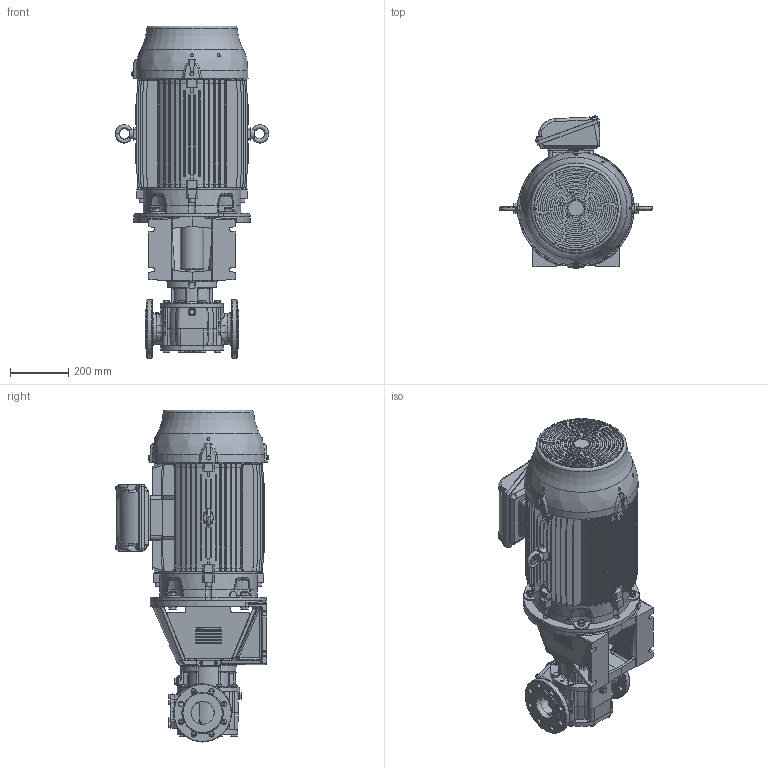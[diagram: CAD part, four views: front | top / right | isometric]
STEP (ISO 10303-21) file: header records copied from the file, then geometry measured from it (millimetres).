
FILE_DESCRIPTION(/* description */ (''),/* implementation_level */ '2;1');
FILE_NAME(/* name */ 'C:\V\JPP\Designs\GEAR PUMPS\PRODUCT ENGINEERING\EUROPE\TG BLOC\TG BLOC_58-80_G2_O_NRV-_200L-STEP.stp',/* time_stamp */ '2021-03-19T10:28:07+01:00',/* author */ ('A77THR'),/* organization */ (''),/* preprocessor_version */ 'ST-DEVELOPER v18.1',/* originating_system */ 'Autodesk Inventor 2020',/* authorisation */ '');
FILE_SCHEMA (('AUTOMOTIVE_DESIGN { 1 0 10303 214 3 1 1 }'));
Length unit declared in the file: millimetre
Products named in the file (1): TG BLOC_58-80_G2_O_NRV-_200L
Bounding box: 527.98 x 525.98 x 1141.26 mm (x, y, z)
Volume: 80763007.7 mm3; surface area: 3362751.5 mm2
Topology: 1 solids, 1 shells, 4233 faces, 11306 edges, 7227 vertices
Faces by surface type: plane 1733, cylinder 1051, bspline 815, cone 492, torus 105, sphere 37
Full cylindrical faces by diameter (mm): 4 x1, 4.5 x4, 4.917 x4, 6.3 x1, 6.647 x1, 7.323 x8, 7.444 x3, 8 x7, 9 x8, 10 x8, 10.106 x7, 10.2 x2, 11.053 x4, 11.4 x8, 11.445 x2, 11.6 x3, 12 x4, 13 x1, 13.157 x2, 13.2 x2, 14 x8, 15.011 x2, 17.2 x20, 18 x23, 19 x6, 20.955 x1, 21 x1, 21.2 x1, 21.939 x2, 22 x4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
Entity records: 180382 total; most frequent: CARTESIAN_POINT 76572, ORIENTED_EDGE 22450, DIRECTION 19040, EDGE_CURVE 11225, AXIS2_PLACEMENT_3D 7325, VERTEX_POINT 7223, EDGE_LOOP 4590, LINE 4390
